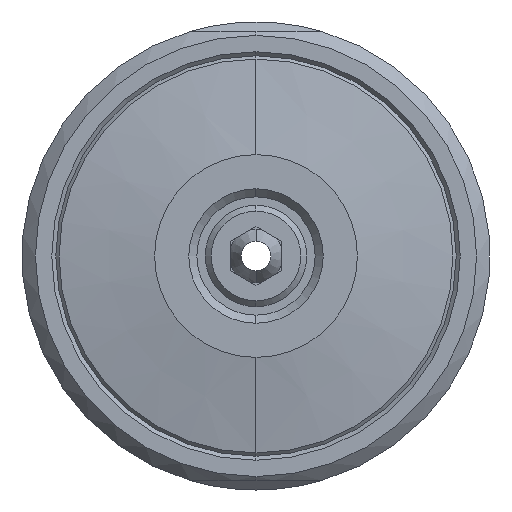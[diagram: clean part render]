
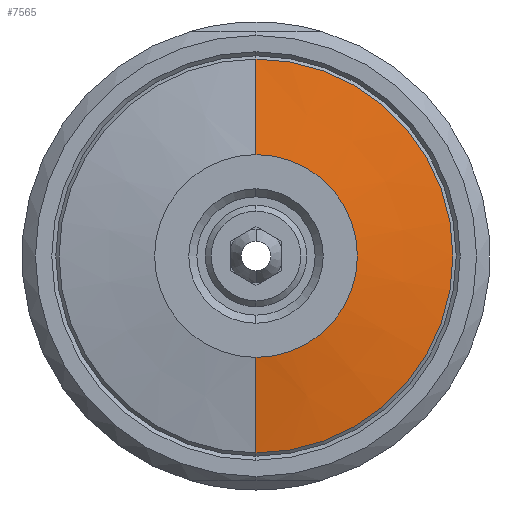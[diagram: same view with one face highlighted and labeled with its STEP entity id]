
A CAD part, left-side view. The second image highlights one B-rep face of the part: STEP entity #7565.
In plain terms, the highlighted conical face has half-angle 80.512 degrees and reference radius 9.525 mm.
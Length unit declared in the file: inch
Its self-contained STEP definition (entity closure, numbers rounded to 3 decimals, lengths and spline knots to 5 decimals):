
#3084 = LINE ( 'NONE', #3090, #3224 ) ;
#3090 = CARTESIAN_POINT ( 'NONE',  ( -5.362, 0., 0.375 ) ) ;
#3154 = DIRECTION ( 'NONE',  ( 0., 0., 1. ) ) ;
#3155 = DIRECTION ( 'NONE',  ( 1., 0., 0. ) ) ;
#3156 = AXIS2_PLACEMENT_3D ( 'NONE', #3158, #3155, #3154 ) ;
#3157 = CONICAL_SURFACE ( 'NONE', #3156, 0.375, 1.405 ) ;
#3158 = CARTESIAN_POINT ( 'NONE',  ( -5.362, 0., 0. ) ) ;
#3163 = CARTESIAN_POINT ( 'NONE',  ( -5.30301, 0., -0.72799 ) ) ;
#3164 = DIRECTION ( 'NONE',  ( 0.165, 0., -0.986 ) ) ;
#3165 = VECTOR ( 'NONE', #3164, 39.37008 ) ;
#3166 = CARTESIAN_POINT ( 'NONE',  ( -5.362, 0., -0.375 ) ) ;
#3167 = LINE ( 'NONE', #3166, #3165 ) ;
#3168 = DIRECTION ( 'NONE',  ( 0., 0., -1. ) ) ;
#3169 = DIRECTION ( 'NONE',  ( -1., 0., 0. ) ) ;
#3170 = CARTESIAN_POINT ( 'NONE',  ( -5.30301, 0., 0. ) ) ;
#3171 = AXIS2_PLACEMENT_3D ( 'NONE', #3170, #3169, #3168 ) ;
#3172 = CIRCLE ( 'NONE', #3171, 0.72799 ) ;
#3173 = CARTESIAN_POINT ( 'NONE',  ( -5.362, 0., 0.375 ) ) ;
#3174 = CARTESIAN_POINT ( 'NONE',  ( -5.362, 0., -0.375 ) ) ;
#3175 = DIRECTION ( 'NONE',  ( 0., 0., 1. ) ) ;
#3176 = DIRECTION ( 'NONE',  ( 1., 0., 0. ) ) ;
#3177 = CARTESIAN_POINT ( 'NONE',  ( -5.362, 0., 0. ) ) ;
#3178 = AXIS2_PLACEMENT_3D ( 'NONE', #3177, #3176, #3175 ) ;
#3179 = CIRCLE ( 'NONE', #3178, 0.375 ) ;
#3180 = CARTESIAN_POINT ( 'NONE',  ( -5.30301, 0., 0.72799 ) ) ;
#3215 = FACE_OUTER_BOUND ( 'NONE', #7564, .T. ) ;
#3223 = DIRECTION ( 'NONE',  ( 0.165, 0., 0.986 ) ) ;
#3224 = VECTOR ( 'NONE', #3223, 39.37008 ) ;
#7543 = ORIENTED_EDGE ( 'NONE', *, *, #7544, .F. ) ;
#7544 = EDGE_CURVE ( 'NONE', #7555, #7551, #3084, .T. ) ;
#7551 = VERTEX_POINT ( 'NONE', #3180 ) ;
#7552 = EDGE_CURVE ( 'NONE', #7555, #7553, #3179, .T. ) ;
#7553 = VERTEX_POINT ( 'NONE', #3174 ) ;
#7554 = ORIENTED_EDGE ( 'NONE', *, *, #7552, .T. ) ;
#7555 = VERTEX_POINT ( 'NONE', #3173 ) ;
#7556 = ORIENTED_EDGE ( 'NONE', *, *, #7557, .T. ) ;
#7557 = EDGE_CURVE ( 'NONE', #7560, #7551, #3172, .T. ) ;
#7558 = ORIENTED_EDGE ( 'NONE', *, *, #7559, .T. ) ;
#7559 = EDGE_CURVE ( 'NONE', #7553, #7560, #3167, .T. ) ;
#7560 = VERTEX_POINT ( 'NONE', #3163 ) ;
#7564 = EDGE_LOOP ( 'NONE', ( #7554, #7558, #7556, #7543 ) ) ;
#7565 = ADVANCED_FACE ( 'NONE', ( #3215 ), #3157, .T. ) ;
